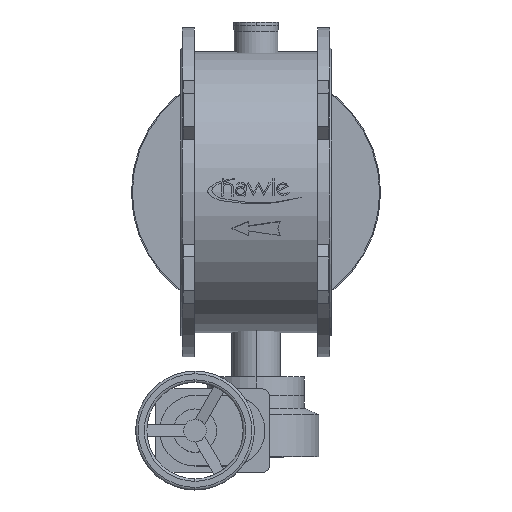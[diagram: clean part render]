
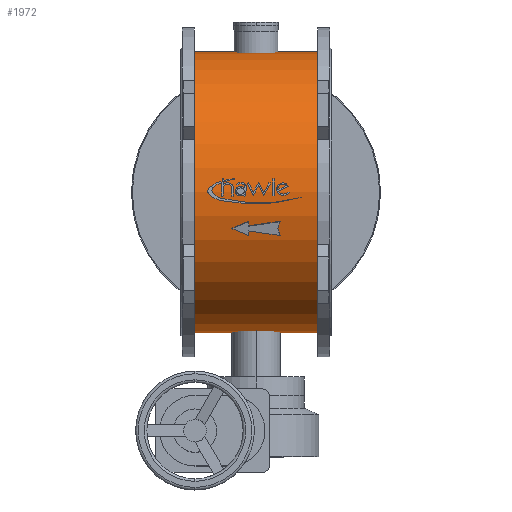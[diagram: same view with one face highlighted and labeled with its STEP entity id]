
A CAD part, top view. The second image highlights one B-rep face of the part: STEP entity #1972.
In plain terms, the highlighted cylindrical face has radius 438 mm (diameter 876 mm), a partial arc.
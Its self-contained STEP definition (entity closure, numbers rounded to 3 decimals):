
#1972=ADVANCED_FACE('',(#3734),#3735,.T.);
#3734=FACE_OUTER_BOUND('',#5618,.T.);
#3735=CYLINDRICAL_SURFACE('',#5619,438.0);
#5618=EDGE_LOOP('',(#9514,#9515,#9516,#9517));
#5619=AXIS2_PLACEMENT_3D('',#9518,#9519,#9520);
#9514=ORIENTED_EDGE('',*,*,#10981,.T.);
#9515=ORIENTED_EDGE('',*,*,#11335,.T.);
#9516=ORIENTED_EDGE('',*,*,#10983,.T.);
#9517=ORIENTED_EDGE('',*,*,#11359,.T.);
#9518=CARTESIAN_POINT('',(-427.0,0.,0.0));
#9519=DIRECTION('',(1.0,0.,0.0));
#9520=DIRECTION('',(0.,-1.0,0.0));
#10981=EDGE_CURVE('',#13236,#13237,#13238,.T.);
#10983=EDGE_CURVE('',#13241,#13239,#13242,.T.);
#11335=EDGE_CURVE('',#13237,#13241,#13681,.T.);
#11359=EDGE_CURVE('',#13239,#13236,#13706,.T.);
#13236=VERTEX_POINT('',#16028);
#13237=VERTEX_POINT('',#16029);
#13238=LINE('',#16030,#16031);
#13239=VERTEX_POINT('',#16032);
#13241=VERTEX_POINT('',#16034);
#13242=LINE('',#16035,#16036);
#13681=CIRCLE('',#16591,438.0);
#13706=CIRCLE('',#16619,438.0);
#16028=CARTESIAN_POINT('',(-427.0,-438.0,0.0));
#16029=CARTESIAN_POINT('',(-43.0,-438.0,0.0));
#16030=CARTESIAN_POINT('',(-427.0,-438.0,0.));
#16031=VECTOR('',#18395,1.0);
#16032=CARTESIAN_POINT('',(-427.0,438.0,0.));
#16034=CARTESIAN_POINT('',(-43.0,438.0,0.));
#16035=CARTESIAN_POINT('',(-427.0,438.0,0.));
#16036=VECTOR('',#18399,1.0);
#16591=AXIS2_PLACEMENT_3D('',#18807,#18808,#18809);
#16619=AXIS2_PLACEMENT_3D('',#18831,#18832,#18833);
#18395=DIRECTION('',(1.0,0.,0.0));
#18399=DIRECTION('',(-1.0,0.,-0.0));
#18807=CARTESIAN_POINT('',(-43.0,0.,0.0));
#18808=DIRECTION('',(-1.0,0.,0.0));
#18809=DIRECTION('',(0.,-1.0,0.0));
#18831=CARTESIAN_POINT('',(-427.0,0.,0.0));
#18832=DIRECTION('',(1.0,0.,0.0));
#18833=DIRECTION('',(0.,-1.0,0.0));
